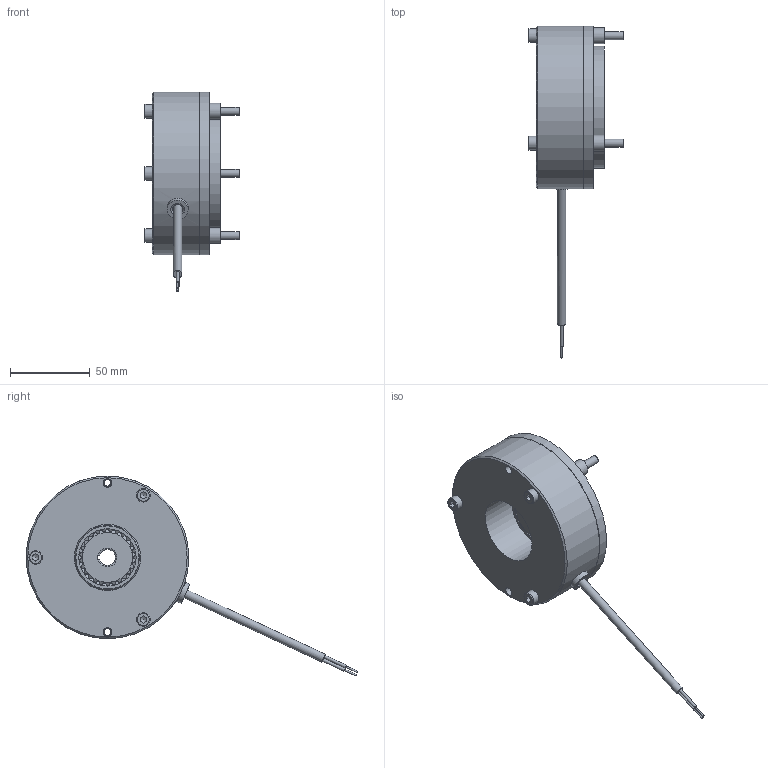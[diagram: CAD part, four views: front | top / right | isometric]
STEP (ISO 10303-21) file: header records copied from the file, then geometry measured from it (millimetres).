
FILE_DESCRIPTION(/* description */ (''),/* implementation_level */ '2;1');
FILE_NAME(/* name */ 'C:\SapWorkDir\Inventor\IP1\ConvertTempPath\5028665_IPT_000.ipt.stp',/* time_stamp */ '2020-09-16T14:42:59+02:00',/* author */ ('STRATE'),/* organization */ (''),/* preprocessor_version */ 'ST-DEVELOPER v17',/* originating_system */ 'Autodesk Inventor 2018',/* authorisation */ '');
FILE_SCHEMA (('AUTOMOTIVE_DESIGN { 1 0 10303 214 3 1 1 }'));
Length unit declared in the file: millimetre
Products named in the file (1): 5028665
Bounding box: 60 x 208.15 x 125.44 mm (x, y, z)
Volume: 287215.6 mm3; surface area: 67975.7 mm2
Topology: 3 solids, 3 shells, 332 faces, 938 edges, 639 vertices
Faces by surface type: cylinder 253, plane 55, cone 16, torus 8
Full cylindrical faces by diameter (mm): 1 x2, 1.85 x2, 4.134 x2, 5 x3, 5.3 x1, 5.4 x5, 5.5 x3, 6.6 x1, 7 x2, 8.5 x3, 10 x3, 10.6 x6, 13.2 x1, 41.5 x1, 42 x1, 55.5 x2, 56.1 x2, 76.5 x1, 102 x1, 102.1 x1
Entity records: 12149 total; most frequent: CARTESIAN_POINT 3080, ORIENTED_EDGE 1874, DIRECTION 1749, EDGE_CURVE 937, AXIS2_PLACEMENT_3D 718, VERTEX_POINT 639, EDGE_LOOP 392, CIRCLE 385
